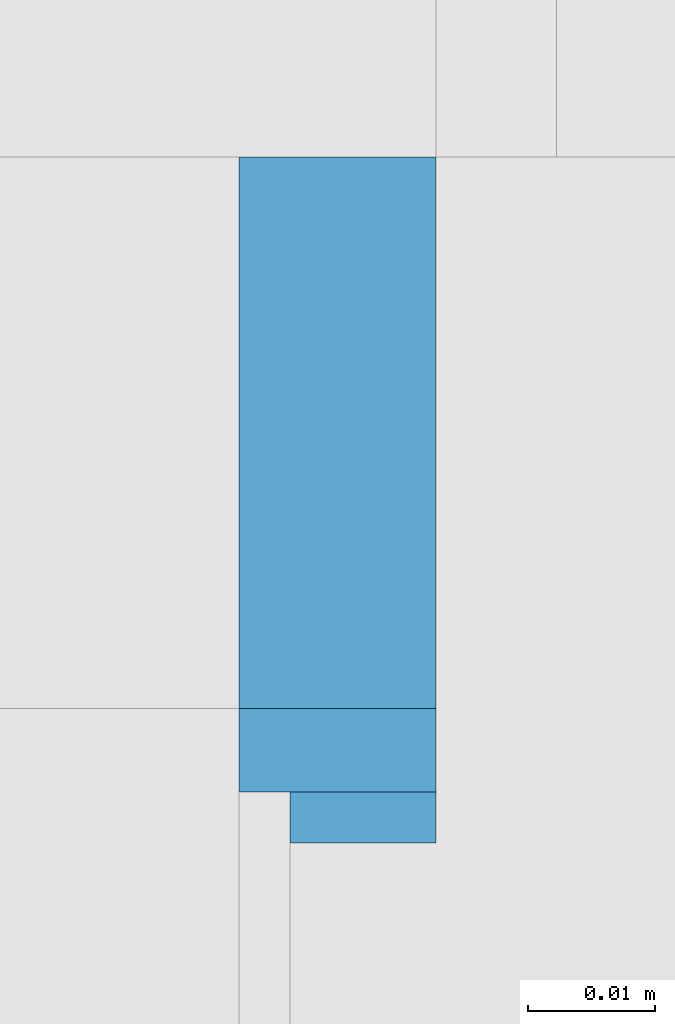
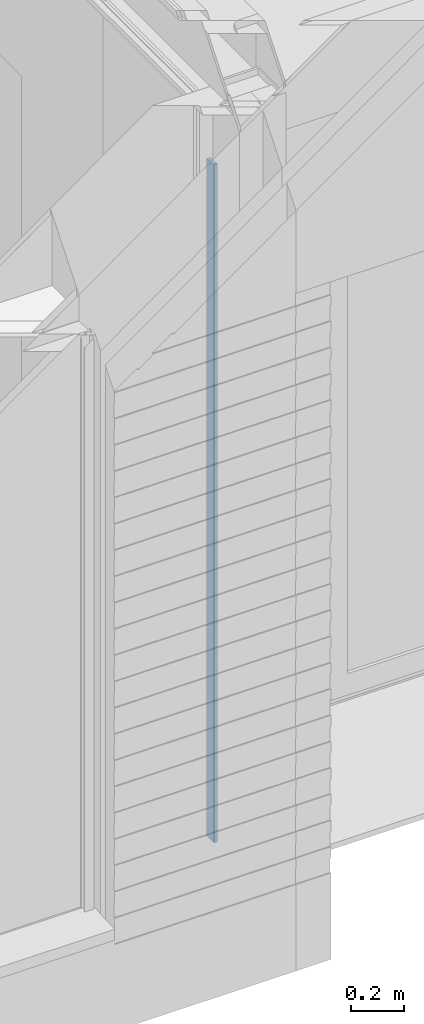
# One storey, part 41 of 165: 2 building element parts, 1 opening, 1 element without a shape of its own.
"""IFC2X3 building model written with IfcOpenShell, lengths in millimetres."""

import ifcopenshell
import ifcopenshell.guid

model = None  # the IFC model being written
_history = None  # IfcOwnerHistory: only IFC2X3 demands one
_inside = {}  # id of a spatial element -> (the spatial element, [elements in it])
_under = {}  # id of a project, library or spatial element -> (it, [spatial elements below it])
_declared = {}  # id of a project -> (the project, [libraries it declares])
_typed = {}  # id of a type object -> (the type object, [elements of that type])
_made_of = {}  # id of a material, layer set ... -> (it, [elements and type objects made of it])


def new_model(schema):
    """Start an empty IFC model of exactly this schema.

    Asked for "IFC4X3", IfcOpenShell would pick the latest addendum, in which some entities
    have other attributes; the version numbers below select the first issue.
    IFC2X3 requires an IfcOwnerHistory on every rooted entity: one is made here for all.
    """
    global model, _history
    if schema == "IFC4X3":
        model = ifcopenshell.file(schema_version=(4, 3, 0, 0))
    else:
        model = ifcopenshell.file(schema=schema)
    _inside.clear()
    _under.clear()
    _declared.clear()
    _typed.clear()
    _made_of.clear()
    _history = None
    if model.schema == "IFC2X3":
        org = make("IfcOrganization", Name="unknown")
        user = make(
            "IfcPersonAndOrganization",
            ThePerson=make("IfcPerson", FamilyName="unknown"),
            TheOrganization=org,
        )
        app = make(
            "IfcApplication",
            ApplicationDeveloper=org,
            Version="unknown",
            ApplicationFullName="unknown",
            ApplicationIdentifier="unknown",
        )
        _history = make(
            "IfcOwnerHistory",
            OwningUser=user,
            OwningApplication=app,
            ChangeAction="ADDED",
            CreationDate=0,
        )
    return model


def make(cls, **values):
    """One entity of the class cls with the attributes given. An attribute that is None is left unset."""
    return model.create_entity(
        cls, **{name: value for name, value in values.items() if value is not None}
    )


def entity(cls, *values):
    """Any entity or typed value of the class cls, its attributes in the order of the schema. None: left unset."""
    e = model.create_entity(cls)
    for i, value in enumerate(values):
        if value is not None:
            e[i] = value
    return e


def rooted(cls, **values):
    """An entity with a GlobalId (a new one), such as an element, a storey or a relation."""
    return make(cls, GlobalId=ifcopenshell.guid.new(), OwnerHistory=_history, **values)


def si_unit(unit_type, name, prefix=None):
    """IfcSIUnit, for example si_unit("LENGTHUNIT", "METRE", prefix="MILLI")."""
    return make("IfcSIUnit", UnitType=unit_type, Prefix=prefix, Name=name)


def converted_unit(unit_type, name, factor, base, dimensions=None, offset=None):
    """IfcConversionBasedUnit, such as the inch: factor (a typed value) times the base unit."""
    return make(
        "IfcConversionBasedUnit"
        if offset is None
        else "IfcConversionBasedUnitWithOffset",
        ConversionOffset=offset,
        Dimensions=None
        if dimensions is None
        else entity("IfcDimensionalExponents", *dimensions),
        UnitType=unit_type,
        Name=name,
        ConversionFactor=make(
            "IfcMeasureWithUnit", ValueComponent=factor, UnitComponent=base
        ),
    )


def derived_unit(unit_type, elements):
    """IfcDerivedUnit: a product of units, each with its exponent."""
    return make(
        "IfcDerivedUnit",
        Elements=[
            make("IfcDerivedUnitElement", Unit=unit, Exponent=power)
            for unit, power in elements
        ],
        UnitType=unit_type,
    )


def money_unit(currency):
    """IfcMonetaryUnit."""
    return make("IfcMonetaryUnit", Currency=currency)


def assignment(units):
    """IfcUnitAssignment: the units of a project."""
    return None if units is None else make("IfcUnitAssignment", Units=units)


def point(xyz):
    """IfcCartesianPoint."""
    return None if xyz is None else make("IfcCartesianPoint", Coordinates=xyz)


def direction(xyz):
    """IfcDirection."""
    return None if xyz is None else make("IfcDirection", DirectionRatios=xyz)


def frame(location, z_axis=None, x_axis=None):
    """IfcAxis2Placement3D, a coordinate frame: its origin and axes. An axis left out is left unset."""
    return make(
        "IfcAxis2Placement3D",
        Location=point(location),
        Axis=direction(z_axis),
        RefDirection=direction(x_axis),
    )


def origin_with_axes():
    """The frame at (0, 0, 0) with the z axis (0, 0, 1) and the x axis (1, 0, 0) written out."""
    return frame((0.0, 0.0, 0.0), z_axis=(0.0, 0.0, 1.0), x_axis=(1.0, 0.0, 0.0))


def place(relative_to, where):
    """IfcLocalPlacement: puts the frame where relative to a parent placement (None: the world)."""
    return make(
        "IfcLocalPlacement", PlacementRelTo=relative_to, RelativePlacement=where
    )


def context(
    kind, dimensions, precision=None, world=None, true_north=None, identifier=None
):
    """IfcGeometricRepresentationContext, for example the 3D "Model" context."""
    return make(
        "IfcGeometricRepresentationContext",
        ContextIdentifier=identifier,
        ContextType=kind,
        CoordinateSpaceDimension=dimensions,
        Precision=precision,
        WorldCoordinateSystem=world,
        TrueNorth=true_north,
    )


def subcontext(parent, identifier, kind, view, scale=None):
    """IfcGeometricRepresentationSubContext, for example "Body" below "Model"."""
    return make(
        "IfcGeometricRepresentationSubContext",
        ContextIdentifier=identifier,
        ContextType=kind,
        ParentContext=parent,
        TargetScale=scale,
        TargetView=view,
    )


def project(units=None, contexts=None):
    """IfcProject with its units and contexts."""
    return rooted(
        "IfcProject",
        Name="project",
        RepresentationContexts=contexts,
        UnitsInContext=assignment(units),
    )


def spatial(cls, under=None, at=None, **own):
    """A site, building, storey or space (cls), placed at a placement, below another one or the project."""
    s = rooted(cls, ObjectPlacement=at, **own)
    if under is not None:
        _under.setdefault(under.id(), (under, []))[1].append(s)
    return s


def faces_of(points, faces, orient=None, outer=None):
    """IfcFace entities. A face is a list of loops; a loop is a list of indices into points, from 0.

    orient and outer hold one flag for each loop. By default every Orientation is true, the
    first loop of a face is its IfcFaceOuterBound and the others are IfcFaceBound.
    """
    made = []
    for i, loops in enumerate(faces):
        bounds = []
        for j, loop in enumerate(loops):
            is_outer = j == 0 if outer is None else outer[i][j]
            bounds.append(
                make(
                    "IfcFaceOuterBound" if is_outer else "IfcFaceBound",
                    Bound=make("IfcPolyLoop", Polygon=[points[k] for k in loop]),
                    Orientation=True if orient is None else orient[i][j],
                )
            )
        made.append(make("IfcFace", Bounds=bounds))
    return made


def faceted_brep(points, faces, orient=None, outer=None, voids=None):
    """IfcFacetedBrep: a solid bounded by flat faces; with voids (closed shells), ...WithVoids."""
    shared = [point(p) for p in points]
    hull = make("IfcClosedShell", CfsFaces=faces_of(shared, faces, orient, outer))
    if voids is None:
        return make("IfcFacetedBrep", Outer=hull)
    return make(
        "IfcFacetedBrepWithVoids",
        Outer=hull,
        Voids=[
            make(cls, CfsFaces=faces_of(shared, fs, o, b)) for cls, fs, o, b in voids
        ],
    )


def shape(context_of_items, identifier, shape_type, items):
    """IfcShapeRepresentation: the items that make up one representation, for example the "Body"."""
    return make(
        "IfcShapeRepresentation",
        ContextOfItems=context_of_items,
        RepresentationIdentifier=identifier,
        RepresentationType=shape_type,
        Items=items,
    )


def material(Name=None, Category=None):
    """IfcMaterial."""
    return make("IfcMaterial", Name=Name, Category=Category)


def made_of(thing, what):
    """Note that an element or type object is made of a material, layer set ...; save() writes the relation."""
    if what is not None:
        _made_of.setdefault(what.id(), (what, []))[1].append(thing)
    return thing


def type_object(cls, material=None, **own):
    """A type object (cls), such as IfcWallType, which elements share."""
    return made_of(rooted(cls, **own), material)


def element(
    cls,
    number,
    at=None,
    inside=None,
    cuts=None,
    type_object=None,
    material=None,
    context=None,
    identifier="Body",
    shape_type=None,
    held_by="IfcProductDefinitionShape",
    body=None,
    shapes=None,
    **own,
):
    """One element of the class cls, such as IfcWall. Its Tag is "e" and its number.

    at: its placement. inside: the storey or other place that contains it. cuts: it is an
    opening in that element (IfcRelVoidsElement). A single representation is given by context,
    identifier, shape_type and body (its items); several are given by shapes. held_by: the class
    of the entity that holds the representations. save() writes the other relations.
    """
    e = rooted(cls, Tag="e%d" % number, ObjectPlacement=at, **own)
    if body is not None:
        shapes = [shape(context, identifier, shape_type, body)]
    if shapes is not None:
        e.Representation = make(held_by, Representations=shapes)
    if inside is not None:
        _inside.setdefault(inside.id(), (inside, []))[1].append(e)
    if cuts is not None:
        rooted(
            "IfcRelVoidsElement", RelatingBuildingElement=cuts, RelatedOpeningElement=e
        )
    if type_object is not None:
        _typed.setdefault(type_object.id(), (type_object, []))[1].append(e)
    return made_of(e, material)


def aggregate(whole, parts):
    """IfcRelAggregates: a whole, such as a stair, and the parts it consists of."""
    return rooted("IfcRelAggregates", RelatingObject=whole, RelatedObjects=parts)


def save(model, path):
    """Write the relations noted so far, then the file.

    IfcRelAggregates (storeys below a building ...), IfcRelContainedInSpatialStructure (elements
    in a storey), IfcRelDefinesByType, IfcRelAssociatesMaterial and IfcRelDeclares: one each for
    every whole, place, type object, material and project.
    """
    for whole, parts in _under.values():
        aggregate(whole, parts)
    for where, things in _inside.values():
        rooted(
            "IfcRelContainedInSpatialStructure",
            RelatedElements=things,
            RelatingStructure=where,
        )
    for kind, things in _typed.values():
        rooted("IfcRelDefinesByType", RelatedObjects=things, RelatingType=kind)
    for what, things in _made_of.values():
        rooted("IfcRelAssociatesMaterial", RelatedObjects=things, RelatingMaterial=what)
    for by, libraries in _declared.values():
        rooted("IfcRelDeclares", RelatingContext=by, RelatedDefinitions=libraries)
    model.write(path)


model = new_model("IFC2X3")

# Units and contexts
model_context = context("Model", 3, precision=0.01, world=origin_with_axes(), true_north=direction((0.0, 1.0)))
body_context = subcontext(model_context, "Body", "Model", "MODEL_VIEW")
ifc_project = project(units=[si_unit("LENGTHUNIT", "METRE", prefix="MILLI"), si_unit("AREAUNIT", "SQUARE_METRE"), si_unit("VOLUMEUNIT", "CUBIC_METRE"), converted_unit("PLANEANGLEUNIT", "DEGREE", entity("IfcPlaneAngleMeasure", 0.0174532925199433), si_unit("PLANEANGLEUNIT", "RADIAN"), dimensions=[0, 0, 0, 0, 0, 0, 0]), money_unit("EUR"), converted_unit("TIMEUNIT", "Year", entity("IfcTimeMeasure", 31556926.0), si_unit("TIMEUNIT", "SECOND"), dimensions=[0, 0, 1, 0, 0, 0, 0]), si_unit("MASSUNIT", "GRAM", prefix="KILO"), si_unit("THERMODYNAMICTEMPERATUREUNIT", "DEGREE_CELSIUS"), si_unit("LUMINOUSINTENSITYUNIT", "LUMEN"), si_unit("ENERGYUNIT", "JOULE", prefix="MEGA"), derived_unit("THERMALCONDUCTANCEUNIT", [(si_unit("POWERUNIT", "WATT"), 1), (si_unit("LENGTHUNIT", "METRE"), -1), (si_unit("THERMODYNAMICTEMPERATUREUNIT", "KELVIN"), -1)]), derived_unit("SPECIFICHEATCAPACITYUNIT", [(si_unit("ENERGYUNIT", "JOULE"), 1), (si_unit("MASSUNIT", "GRAM", prefix="KILO"), -1), (si_unit("THERMODYNAMICTEMPERATUREUNIT", "KELVIN"), -1)]), derived_unit("MASSDENSITYUNIT", [(si_unit("MASSUNIT", "GRAM", prefix="KILO"), 1), (si_unit("VOLUMEUNIT", "CUBIC_METRE"), -1)])], contexts=[model_context])

# Site, building, storey
site_placement = place(None, origin_with_axes())
site = spatial("IfcSite", under=ifc_project, at=site_placement, Name="Site", CompositionType="ELEMENT")
building_placement = place(site_placement, origin_with_axes())
building = spatial("IfcBuilding", under=site, at=building_placement, Name="Naam gebouw", CompositionType="ELEMENT")
storey_placement = place(building_placement, origin_with_axes())
storey = spatial("IfcBuildingStorey", under=building, at=storey_placement, Name="Begane grond", CompositionType="ELEMENT", Elevation=0.0)

# Wall, opening, building element parts
wall_type = type_object("IfcWallType", Name="21 Buitenwand staalplaat 268", PredefinedType="NOTDEFINED")
wall_placement = place(storey_placement, frame((8950.0, 679.999999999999, -485.0), z_axis=(0.0, 0.0, 1.0), x_axis=(1.0, 0.0, 0.0)))
wall = element("IfcWall", 1, at=wall_placement, inside=storey, type_object=wall_type, Name="21_Wand-x")
opening_placement = place(wall_placement, frame((1230.500000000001, 0.0, 475.0), z_axis=(0.0, 0.0, 1.0), x_axis=(1.0, 0.0, 0.0)))
element("IfcOpeningElement", 2, at=opening_placement, cuts=wall, Name="_Merk AJ", context=body_context, shape_type="Brep", body=[
    faceted_brep([(1165.000000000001, 215.0000000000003, 3620.0), (1165.000000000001, 215.0000000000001, -599.9999999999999), (-1165.000000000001, 215.0000000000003, -599.9999999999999), (-1165.000000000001, 215.0000000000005, 3620.0), (1165.000000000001, -55.00000000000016, 3620.0), (1165.000000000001, -55.00000000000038, -599.9999999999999), (-1165.000000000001, -55.00000000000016, -599.9999999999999), (-1165.000000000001, -54.99999999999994, 3620.0)], [[[0, 1, 2, 3]], [[4, 5, 1, 0]], [[5, 6, 2, 1]], [[6, 7, 3, 2]], [[7, 4, 0, 3]], [[6, 5, 4, 7]]]),
])
ifc_material_1 = material(Name="Isolatie - Glaswol zacht")
building_element_part_1_placement = place(wall_placement, origin_with_axes())
building_element_part_1 = element("IfcBuildingElementPart", 3, at=building_element_part_1_placement, material=ifc_material_1, Name="Isolatie - Glaswol zacht", context=body_context, shape_type="Brep", body=[
    faceted_brep([(50.00000000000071, 0.0, 0.0), (50.00000000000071, 0.0, 3095.0), (65.50000000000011, 0.0, 3095.0), (65.50000000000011, 0.0, 0.0), (50.00000000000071, -43.43750990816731, 3096.99999613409), (50.00000000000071, -43.43751438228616, 3095.0), (50.00000000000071, -49.99999999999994, 0.0), (50.00000000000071, -49.99999999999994, 3096.99999613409), (65.50000000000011, -43.43751438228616, 3095.0), (65.50000000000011, -43.43750990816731, 3096.99999613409), (65.50000000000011, -49.99999999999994, 3096.99999613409), (65.50000000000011, -49.99999999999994, 0.0)], [[[0, 1, 2, 3]], [[4, 5, 1, 0, 6, 7]], [[5, 8, 2, 1]], [[2, 8, 9, 10, 11, 3]], [[11, 6, 0, 3]], [[5, 4, 9, 8]], [[11, 10, 7, 6]], [[10, 9, 4, 7]]]),
])
ifc_material_2 = material(Name="Rockpanel RAL 1001")
building_element_part_2_placement = place(wall_placement, origin_with_axes())
building_element_part_2 = element("IfcBuildingElementPart", 4, at=building_element_part_2_placement, material=ifc_material_2, Name="Rockpanel RAL 1001", context=body_context, shape_type="Brep", body=[
    faceted_brep([(54.00000000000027, -49.99999999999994, 0.0), (54.00000000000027, -49.99999999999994, 3096.99999613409), (65.50000000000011, -49.99999999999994, 3096.99999613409), (65.50000000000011, -49.99999999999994, 0.0), (54.00000000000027, -53.9999999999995, 0.0), (54.00000000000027, -53.9999999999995, 3096.99999613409), (65.50000000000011, -53.9999999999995, 3096.99999613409), (65.50000000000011, -53.9999999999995, 0.0)], [[[0, 1, 2, 3]], [[4, 5, 1, 0]], [[5, 6, 2, 1]], [[3, 2, 6, 7]], [[7, 4, 0, 3]], [[7, 6, 5, 4]]]),
])
aggregate(wall, [building_element_part_1, building_element_part_2])

save(model, "model.ifc")
